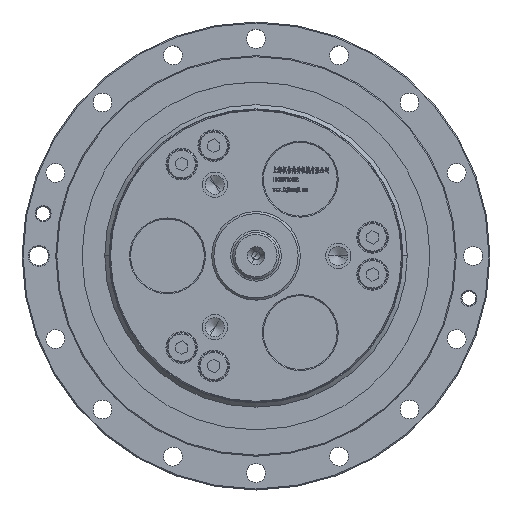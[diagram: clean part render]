
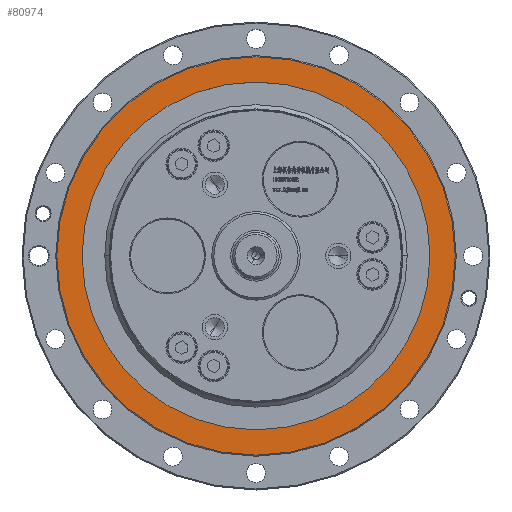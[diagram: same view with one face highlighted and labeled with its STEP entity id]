
A CAD part, top view. The second image highlights one B-rep face of the part: STEP entity #80974.
In plain terms, the highlighted planar face has unit normal (0, 0, 1).
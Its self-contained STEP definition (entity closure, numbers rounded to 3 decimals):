
#1260 = ORIENTED_EDGE ( 'NONE', *, *, #6363, .T. ) ;
#4872 = EDGE_CURVE ( 'NONE', #78302, #55232, #83579, .T. ) ;
#5270 = AXIS2_PLACEMENT_3D ( 'NONE', #57558, #86986, #95011 ) ;
#5509 = CIRCLE ( 'NONE', #101782, 94.5 ) ;
#6363 = EDGE_CURVE ( 'NONE', #55232, #78302, #7006, .T. ) ;
#7006 = CIRCLE ( 'NONE', #5270, 82.5 ) ;
#8471 = FACE_BOUND ( 'NONE', #110273, .T. ) ;
#9813 = DIRECTION ( 'NONE',  ( -1., 0., 0. ) ) ;
#14884 = CARTESIAN_POINT ( 'NONE',  ( -82.5, 0., 27. ) ) ;
#16512 = EDGE_CURVE ( 'NONE', #67911, #117030, #31641, .T. ) ;
#18632 = CARTESIAN_POINT ( 'NONE',  ( 82.5, 0., 27. ) ) ;
#26584 = EDGE_CURVE ( 'NONE', #117030, #67911, #5509, .T. ) ;
#27005 = DIRECTION ( 'NONE',  ( 0., -1., 0. ) ) ;
#27586 = DIRECTION ( 'NONE',  ( 0., 0., -1. ) ) ;
#28207 = DIRECTION ( 'NONE',  ( -1., 0., 0. ) ) ;
#31641 = CIRCLE ( 'NONE', #104262, 94.5 ) ;
#35778 = CARTESIAN_POINT ( 'NONE',  ( 0., 0., 27. ) ) ;
#36234 = PLANE ( 'NONE',  #74613 ) ;
#38156 = EDGE_LOOP ( 'NONE', ( #79133, #42813 ) ) ;
#42813 = ORIENTED_EDGE ( 'NONE', *, *, #16512, .F. ) ;
#54798 = CARTESIAN_POINT ( 'NONE',  ( 0., 0., 27. ) ) ;
#55232 = VERTEX_POINT ( 'NONE', #18632 ) ;
#56682 = DIRECTION ( 'NONE',  ( 0., 0., -1. ) ) ;
#57558 = CARTESIAN_POINT ( 'NONE',  ( 0., 0., 27. ) ) ;
#65135 = CARTESIAN_POINT ( 'NONE',  ( 0., 0., 27. ) ) ;
#67064 = CARTESIAN_POINT ( 'NONE',  ( -94.5, 0., 27. ) ) ;
#67131 = CARTESIAN_POINT ( 'NONE',  ( 94.5, 0., 27. ) ) ;
#67911 = VERTEX_POINT ( 'NONE', #67131 ) ;
#74613 = AXIS2_PLACEMENT_3D ( 'NONE', #65135, #81788, #27005 ) ;
#75035 = DIRECTION ( 'NONE',  ( -1., 0., 0. ) ) ;
#78302 = VERTEX_POINT ( 'NONE', #14884 ) ;
#79133 = ORIENTED_EDGE ( 'NONE', *, *, #26584, .F. ) ;
#80974 = ADVANCED_FACE ( 'NONE', ( #111199, #8471 ), #36234, .F. ) ;
#81788 = DIRECTION ( 'NONE',  ( 0., 0., -1. ) ) ;
#82814 = ORIENTED_EDGE ( 'NONE', *, *, #4872, .T. ) ;
#83579 = CIRCLE ( 'NONE', #116903, 82.5 ) ;
#86986 = DIRECTION ( 'NONE',  ( 0., 0., -1. ) ) ;
#92237 = DIRECTION ( 'NONE',  ( 0., 0., -1. ) ) ;
#95011 = DIRECTION ( 'NONE',  ( -1., 0., 0. ) ) ;
#101782 = AXIS2_PLACEMENT_3D ( 'NONE', #35778, #56682, #9813 ) ;
#104262 = AXIS2_PLACEMENT_3D ( 'NONE', #120396, #27586, #28207 ) ;
#110273 = EDGE_LOOP ( 'NONE', ( #82814, #1260 ) ) ;
#111199 = FACE_OUTER_BOUND ( 'NONE', #38156, .T. ) ;
#116903 = AXIS2_PLACEMENT_3D ( 'NONE', #54798, #92237, #75035 ) ;
#117030 = VERTEX_POINT ( 'NONE', #67064 ) ;
#120396 = CARTESIAN_POINT ( 'NONE',  ( 0., 0., 27. ) ) ;
